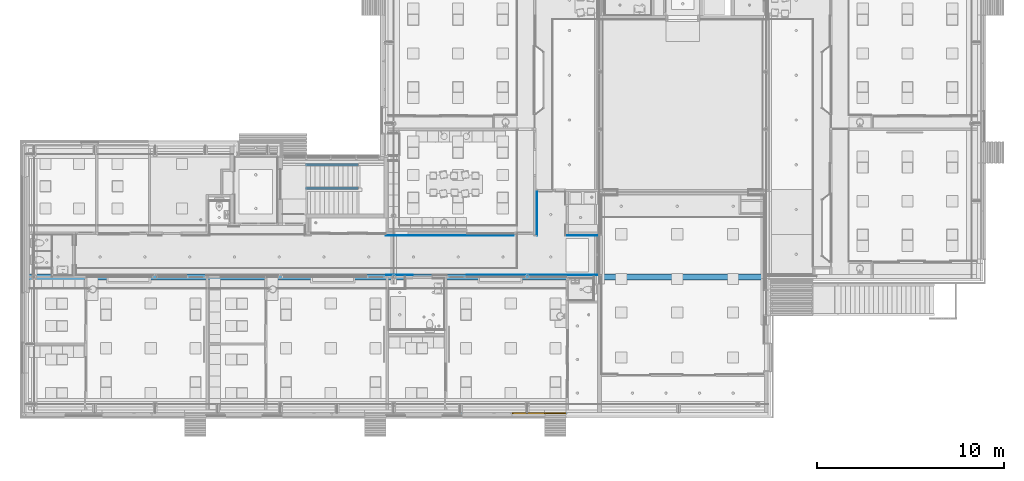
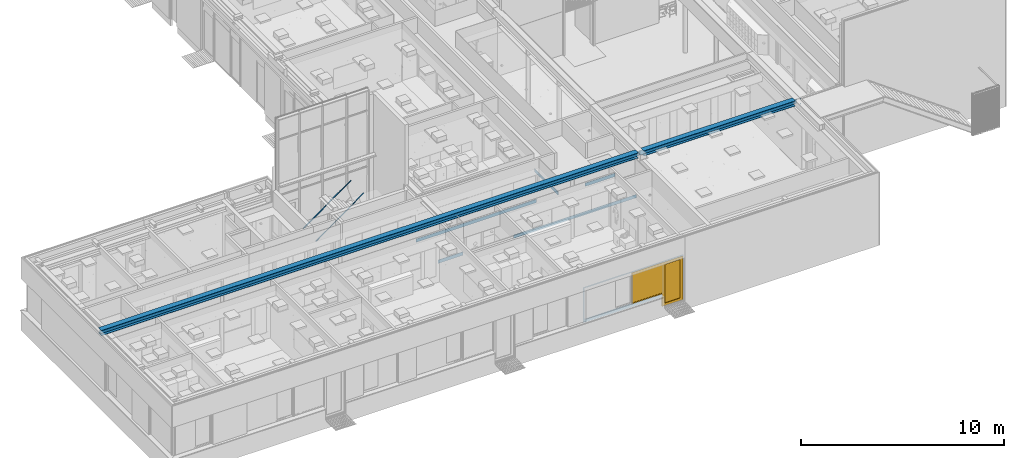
# One storey, part 25 of 347: 8 beams, 1 door, 2 openings, plus 1 element that does not belong to this part.
"""IFC2X3 building model written with IfcOpenShell, lengths in millimetres."""

from ifc_helpers import new_model, entity, si_unit, converted_unit, derived_unit, money_unit, direction, frame, origin_with_axes, place, context, subcontext, project, spatial, open_shell, faceted_brep, surface_model, material, type_object, element, fill, save


model = new_model("IFC2X3")

# Units and contexts
model_context = context("Model", 3, precision=0.01, world=origin_with_axes(), true_north=direction((0.0, 1.0)))
plan_context = context("Plan", 3, precision=0.01, world=origin_with_axes(), true_north=direction((0.0, 1.0)))
body_context = subcontext(model_context, "Body", "Model", "MODEL_VIEW")
ifc_project = project(units=[si_unit("LENGTHUNIT", "METRE", prefix="MILLI"), si_unit("AREAUNIT", "SQUARE_METRE"), si_unit("VOLUMEUNIT", "CUBIC_METRE"), converted_unit("PLANEANGLEUNIT", "DEGREE", entity("IfcPlaneAngleMeasure", 0.0174532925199), si_unit("PLANEANGLEUNIT", "RADIAN"), dimensions=[0, 0, 0, 0, 0, 0, 0]), money_unit("EUR"), converted_unit("TIMEUNIT", "Year", entity("IfcTimeMeasure", 31556926.0), si_unit("TIMEUNIT", "SECOND"), dimensions=[0, 0, 1, 0, 0, 0, 0]), si_unit("MASSUNIT", "GRAM", prefix="KILO"), si_unit("THERMODYNAMICTEMPERATUREUNIT", "DEGREE_CELSIUS"), si_unit("LUMINOUSINTENSITYUNIT", "LUMEN"), si_unit("ENERGYUNIT", "JOULE", prefix="MEGA"), derived_unit("THERMALCONDUCTANCEUNIT", [(si_unit("POWERUNIT", "WATT"), 1), (si_unit("LENGTHUNIT", "METRE"), -1), (si_unit("THERMODYNAMICTEMPERATUREUNIT", "KELVIN"), -1)]), derived_unit("SPECIFICHEATCAPACITYUNIT", [(si_unit("ENERGYUNIT", "JOULE"), 1), (si_unit("MASSUNIT", "GRAM", prefix="KILO"), -1), (si_unit("THERMODYNAMICTEMPERATUREUNIT", "KELVIN"), -1)]), derived_unit("MASSDENSITYUNIT", [(si_unit("MASSUNIT", "GRAM", prefix="KILO"), 1), (si_unit("VOLUMEUNIT", "CUBIC_METRE"), -1)])], contexts=[model_context, plan_context])

# Site, building, storey
site_placement = place(None, origin_with_axes())
site = spatial("IfcSite", under=ifc_project, at=site_placement, Name="Site", CompositionType="ELEMENT")
building_placement = place(site_placement, origin_with_axes())
building = spatial("IfcBuilding", under=site, at=building_placement, Name="Naam gebouw", CompositionType="ELEMENT")
storey_placement = place(building_placement, origin_with_axes())
storey = spatial("IfcBuildingStorey", under=building, at=storey_placement, Name="begane grond", CompositionType="ELEMENT", Elevation=0.0)

# Beams
ifc_material_1 = material(Name="Metaal - RVS")
beam_type_1 = type_object("IfcBeamType", Name="Metaal - RVS 40 x 20", PredefinedType="BEAM")
beam_1_placement = place(storey_placement, frame((19905.0, 18129.9999991, 1016.47764256), z_axis=(0.0, 0.0, 1.0), x_axis=(0.0, -1.0, 0.0)))
element("IfcBeam", 1, at=beam_1_placement, inside=storey, type_object=beam_type_1, material=ifc_material_1, Name="28_Balk-x", ObjectType="BEAM", context=body_context, shape_type="Brep", body=[
    faceted_brep([(-20.0, 20.0, 2.07766277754), (-20.0, 20.0, 5.12235411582), (-20.0, 0.0, 5.12235411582), (-20.0, 0.0, 12.3223375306), (-20.0, 2709.99996966, 1963.52235744), (-20.0, 2716.45090711, 1943.52235744), (20.0, 20.0, 5.12235411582), (20.0, 20.0, 2.07766277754), (20.0, 0.0, 5.12235411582), (20.0, 0.0, 12.3223375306), (20.0, 2709.99996966, 1963.52235744), (20.0, 2716.45090711, 1943.52235744)], [[[0, 1, 2, 3, 4, 5]], [[6, 1, 0, 7]], [[8, 2, 1, 6]], [[3, 2, 8, 9]], [[4, 3, 9, 10]], [[11, 5, 4, 10]], [[11, 7, 0, 5]], [[8, 6, 7, 11, 10, 9]]]),
])
beam_2_placement = place(storey_placement, frame((19905.0, 16870.0000009, 1016.47764256), z_axis=(0.0, 0.0, 1.0), x_axis=(0.0, -1.0, 0.0)))
element("IfcBeam", 2, at=beam_2_placement, inside=storey, type_object=beam_type_1, material=ifc_material_1, Name="28_Balk-x", ObjectType="BEAM", context=body_context, shape_type="Brep", body=[
    faceted_brep([(-20.0, 20.0, 2.07766277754), (-20.0, 20.0, 5.12235411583), (-20.0, 0.0, 5.12235411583), (-20.0, 0.0, 12.3223375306), (-20.0, 2709.99996966, 1963.52235744), (-20.0, 2716.45090711, 1943.52235744), (20.0, 20.0, 5.12235411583), (20.0, 20.0, 2.07766277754), (20.0, 0.0, 5.12235411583), (20.0, 0.0, 12.3223375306), (20.0, 2709.99996966, 1963.52235744), (20.0, 2716.45090711, 1943.52235744)], [[[0, 1, 2, 3, 4, 5]], [[6, 1, 0, 7]], [[8, 2, 1, 6]], [[3, 2, 8, 9]], [[4, 3, 9, 10]], [[4, 10, 11, 5]], [[11, 7, 0, 5]], [[8, 6, 7, 11, 10, 9]]]),
])

# Member, openings, door
ifc_material_2 = material(Name="31 pui/kozijn")
member_type = type_object("IfcMemberType", Name="31 pui/kozijn 62", PredefinedType="MEMBER")
member_placement = place(storey_placement, frame((33875.0, 4850.00002055, 535.00000231), z_axis=(0.0, 0.0, 1.0), x_axis=(-1.0, 0.0, 0.0)))
member = element("IfcMember", 3, at=member_placement, inside=storey, type_object=member_type, material=ifc_material_2, Name="21_31 buitenkozijn pui", ObjectType="MEMBER", context=body_context, shape_type="Brep", body=[
    faceted_brep([(50.0, 0.0, 2064.99999769), (2950.0, 0.0, 2064.99999769), (5650.0, 0.0, 2064.99999769), (5650.0, 0.0, 184.99999769), (2950.0, 0.0, 184.99999769), (1227.0, 0.0, 184.99999769), (1227.0, 0.0, 0.0), (5700.0, 0.0, 0.0), (5700.0, 0.0, 2100.0), (0.0, 0.0, 2100.0), (0.0, 0.0, 0.0), (50.0, 0.0, 0.0), (50.0, 62.0, 2064.99999769), (2950.0, 62.0, 2064.99999769), (5650.0, 62.0, 2064.99999769), (5650.0, 62.0, 184.99999769), (2950.0, 62.0, 184.99999769), (1227.0, 62.0, 184.99999769), (1227.0, 62.0, 0.0), (5700.0, 62.0, 0.0), (5700.0, 62.0, 2100.0), (0.0, 62.0, 2100.0), (0.0, 62.0, 0.0), (50.0, 62.0, 0.0)], [[[0, 1, 2, 3, 4, 5, 6, 7, 8, 9, 10, 11]], [[1, 0, 12, 13, 14, 2]], [[2, 14, 15, 3]], [[16, 17, 5, 4, 3, 15]], [[6, 5, 17, 18]], [[6, 18, 19, 7]], [[20, 8, 7, 19]], [[20, 21, 9, 8]], [[10, 9, 21, 22]], [[23, 11, 10, 22]], [[0, 11, 23, 12]], [[12, 23, 22, 21, 20, 19, 18, 17, 16, 15, 14, 13]]]),
])
opening_1_placement = place(member_placement, frame((4300.0, 0.0, 184.99999769), z_axis=(0.0, 0.0, 1.0), x_axis=(1.0, 0.0, 0.0)))
element("IfcOpeningElement", 4, at=opening_1_placement, cuts=member, Name="31_merk-AC1", context=body_context, shape_type="Brep", body=[
    faceted_brep([(-1350.0, -62.0, 0.0), (-1350.0, -62.0, 1880.0), (-1350.0, 134.0, 1880.0), (-1350.0, 134.0, 0.0), (1350.0, -62.0, 0.0), (1350.0, -62.0, 1880.0), (1350.0, 134.0, 1880.0), (1350.0, 134.0, 0.0)], [[[0, 1, 2, 3]], [[0, 4, 5, 1]], [[1, 5, 6, 2]], [[3, 2, 6, 7]], [[4, 0, 3, 7]], [[5, 4, 7, 6]]]),
])
opening_2_placement = place(member_placement, frame((1500.0, 0.0, -575.00000231), z_axis=(0.0, 0.0, 1.0), x_axis=(1.0, 0.0, 0.0)))
opening_2 = element("IfcOpeningElement", 5, at=opening_2_placement, cuts=member, Name="32_merk-AC2", context=body_context, shape_type="Brep", body=[
    faceted_brep([(1450.0, 134.0, 760.000007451), (1450.0, 134.0, 2640.0), (1450.0, -62.0, 2640.0), (1450.0, -62.0, 760.000007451), (-273.000017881, 134.0, 760.000007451), (-273.000017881, 134.0, -1.49011956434e-06), (-1450.0, 134.0, -1.49011956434e-06), (-1450.0, 134.0, 2640.0), (-1450.0, -62.0, 2640.0), (-1450.0, -62.0, -1.49011957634e-06), (-273.000017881, -62.0, -1.49011957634e-06), (-273.000017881, -62.0, 760.000007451)], [[[0, 1, 2, 3]], [[0, 4, 5, 6, 7, 1]], [[1, 7, 8, 2]], [[3, 2, 8, 9, 10, 11]], [[4, 0, 3, 11]], [[5, 4, 11, 10]], [[6, 5, 10, 9]], [[7, 6, 9, 8]]]),
])
door_style = type_object("IfcDoorStyle", Name="D1 zl1-b 25", ConstructionType="NOTDEFINED", OperationType="SINGLE_SWING_LEFT", ParameterTakesPrecedence=False, Sizeable=False)
door_placement = place(opening_2_placement, frame((-1450.0, 0.0, 0.0), z_axis=(0.0, 0.0, 1.0), x_axis=(1.0, 0.0, 0.0)))
door = element("IfcDoor", 6, at=door_placement, inside=storey, type_object=door_style, Name="32_merk-AC2", ObjectType="DOOR", OverallHeight=2640.0, OverallWidth=2900.0, context=body_context, shape_type="SurfaceModel", body=[
    faceted_brep([(54.0, 72.0, 0.0), (1109.0, 72.0, 0.0), (1109.0, 0.0, 0.0), (54.0, 0.0, 0.0), (54.0, 72.0, 48.0), (1109.0, 72.0, 48.0), (1109.0, 0.0, 48.0), (54.0, 0.0, 48.0)], [[[0, 1, 2, 3]], [[4, 5, 1, 0]], [[1, 5, 6, 2]], [[3, 2, 6, 7]], [[0, 3, 7, 4]], [[7, 6, 5, 4]]]),
    faceted_brep([(2900.0, 72.0, 760.0), (2900.0, 0.0, 760.0), (2861.0, 0.0, 760.0), (2861.0, 72.0, 760.0), (2900.0, 72.0, 2586.0), (2900.0, 0.0, 2586.0), (2861.0, 0.0, 2586.0), (2861.0, 0.0, 814.0), (2861.0, 72.0, 814.0), (2861.0, 72.0, 2586.0)], [[[0, 1, 2, 3]], [[4, 5, 1, 0]], [[1, 5, 6, 7, 2]], [[3, 2, 7, 8]], [[0, 3, 8, 9, 4]], [[9, 6, 5, 4]], [[8, 7, 6, 9]]]),
    faceted_brep([(1177.0, 72.0, 2586.0), (1177.0, 0.0, 2586.0), (1177.0, 0.0, 814.0), (1177.0, 72.0, 814.0), (1109.0, 72.0, 2586.0), (1109.0, 0.0, 2586.0), (1109.0, 0.0, 0.0), (1177.0, 0.0, 0.0), (1177.0, 0.0, 760.0), (1177.0, 72.0, 760.0), (1177.0, 72.0, 0.0), (1109.0, 72.0, 0.0)], [[[0, 1, 2, 3]], [[4, 5, 1, 0]], [[1, 5, 6, 7, 8, 2]], [[3, 2, 8, 9]], [[0, 3, 9, 10, 11, 4]], [[11, 6, 5, 4]], [[10, 7, 6, 11]], [[9, 8, 7, 10]]]),
    faceted_brep([(2861.0, 72.0, 814.0), (2861.0, 0.0, 814.0), (2861.0, 0.0, 760.0), (2861.0, 72.0, 760.0), (1177.0, 72.0, 814.0), (1177.0, 0.0, 814.0), (1177.0, 0.0, 760.0), (1177.0, 72.0, 760.0)], [[[0, 1, 2, 3]], [[4, 5, 1, 0]], [[1, 5, 6, 2]], [[3, 2, 6, 7]], [[0, 3, 7, 4]], [[7, 6, 5, 4]]]),
    faceted_brep([(0.0, 72.0, 0.0), (0.0, 0.0, 0.0), (0.0, 0.0, 2586.0), (0.0, 72.0, 2586.0), (54.0, 72.0, 0.0), (54.0, 0.0, 0.0), (54.0, 0.0, 2586.0), (54.0, 72.0, 2586.0)], [[[0, 1, 2, 3]], [[4, 5, 1, 0]], [[1, 5, 6, 2]], [[3, 2, 6, 7]], [[0, 3, 7, 4]], [[7, 6, 5, 4]]]),
    faceted_brep([(2900.0, 72.0, 2640.0), (2900.0, 0.0, 2640.0), (2900.0, 0.0, 2586.0), (2900.0, 72.0, 2586.0), (0.0, 72.0, 2640.0), (0.0, 0.0, 2640.0), (0.0, 0.0, 2586.0), (54.0, 0.0, 2586.0), (1109.0, 0.0, 2586.0), (1177.0, 0.0, 2586.0), (2861.0, 0.0, 2586.0), (2861.0, 72.0, 2586.0), (1177.0, 72.0, 2586.0), (1109.0, 72.0, 2586.0), (54.0, 72.0, 2586.0), (0.0, 72.0, 2586.0)], [[[0, 1, 2, 3]], [[4, 5, 1, 0]], [[1, 5, 6, 7, 8, 9, 10, 2]], [[3, 2, 10, 11]], [[0, 3, 11, 12, 13, 14, 15, 4]], [[15, 6, 5, 4]], [[14, 7, 6, 15]], [[13, 8, 7, 14]], [[12, 9, 8, 13]], [[11, 10, 9, 12]]]),
    faceted_brep([(54.0, 72.0, 158.0), (154.0, 72.0, 158.0), (154.0, 10.0, 158.0), (54.0, 10.0, 158.0), (54.0, 72.0, 2486.0), (154.0, 72.0, 2486.0), (154.0, 10.0, 2486.0), (54.0, 10.0, 2486.0)], [[[0, 1, 2, 3]], [[0, 4, 5, 1]], [[1, 5, 6, 2]], [[3, 2, 6, 7]], [[4, 0, 3, 7]], [[5, 4, 7, 6]]]),
    faceted_brep([(1109.0, 72.0, 158.0), (1109.0, 72.0, 2486.0), (1109.0, 10.0, 2486.0), (1109.0, 10.0, 158.0), (1009.0, 72.0, 158.0), (1009.0, 72.0, 2486.0), (1009.0, 10.0, 2486.0), (1009.0, 10.0, 158.0)], [[[0, 1, 2, 3]], [[0, 4, 5, 1]], [[1, 5, 6, 2]], [[3, 2, 6, 7]], [[4, 0, 3, 7]], [[5, 4, 7, 6]]]),
    faceted_brep([(54.0, 72.0, 48.0), (1109.0, 72.0, 48.0), (1109.0, 10.0, 48.0), (54.0, 10.0, 48.0), (54.0, 72.0, 158.0), (154.0, 72.0, 158.0), (1009.0, 72.0, 158.0), (1109.0, 72.0, 158.0), (1109.0, 10.0, 158.0), (1009.0, 10.0, 158.0), (154.0, 10.0, 158.0), (54.0, 10.0, 158.0)], [[[0, 1, 2, 3]], [[0, 4, 5, 6, 7, 1]], [[1, 7, 8, 2]], [[3, 2, 8, 9, 10, 11]], [[4, 0, 3, 11]], [[5, 4, 11, 10]], [[6, 5, 10, 9]], [[7, 6, 9, 8]]]),
    faceted_brep([(54.0, 72.0, 2586.0), (54.0, 72.0, 2486.0), (54.0, 10.0, 2486.0), (54.0, 10.0, 2586.0), (1109.0, 72.0, 2586.0), (1109.0, 72.0, 2486.0), (1009.0, 72.0, 2486.0), (154.0, 72.0, 2486.0), (154.0, 10.0, 2486.0), (1009.0, 10.0, 2486.0), (1109.0, 10.0, 2486.0), (1109.0, 10.0, 2586.0)], [[[0, 1, 2, 3]], [[0, 4, 5, 6, 7, 1]], [[1, 7, 8, 2]], [[3, 2, 8, 9, 10, 11]], [[4, 0, 3, 11]], [[5, 4, 11, 10]], [[6, 5, 10, 9]], [[7, 6, 9, 8]]]),
    surface_model("IfcShellBasedSurfaceModel", [(154.0, 47.0, 158.0), (154.0, 47.0, 2486.0), (1009.0, 47.0, 2486.0), (1009.0, 47.0, 158.0)], [open_shell([[[0, 1, 2, 3]]])]),
    surface_model("IfcShellBasedSurfaceModel", [(154.0, 35.0, 158.0), (1009.0, 35.0, 158.0), (1009.0, 35.0, 2486.0), (154.0, 35.0, 2486.0)], [open_shell([[[0, 1, 2, 3]]])]),
    surface_model("IfcShellBasedSurfaceModel", [(2861.0, 60.0, 814.0), (1177.0, 60.0, 814.0), (1177.0, 60.0, 2586.0), (2861.0, 60.0, 2586.0)], [open_shell([[[0, 1, 2, 3]]])]),
    surface_model("IfcShellBasedSurfaceModel", [(2861.0, 48.0, 814.0), (2861.0, 48.0, 2586.0), (1177.0, 48.0, 2586.0), (1177.0, 48.0, 814.0)], [open_shell([[[0, 1, 2, 3]]])]),
])
fill(opening_2, door)

# Beams
ifc_material_3 = material(Name="Glas geleiding strook")
beam_type_2 = type_object("IfcBeamType", Name="42 geleiding strook 20 x 200", PredefinedType="BEAM")
beam_3_placement = place(storey_placement, frame((24150.0, 14400.0, 0.0), z_axis=(0.0, 0.0, 1.0), x_axis=(0.0, -1.0, 0.0)))
element("IfcBeam", 7, at=beam_3_placement, inside=storey, type_object=beam_type_2, material=ifc_material_3, Name="28_Balk-x", ObjectType="BEAM", context=body_context, shape_type="Brep", body=[
    faceted_brep([(40.0, 6861.0, 1200.0), (40.0, 6861.0, 1000.0), (40.0, 0.0, 1000.0), (40.0, 0.0, 1200.0), (60.0, 6861.0, 1200.0), (60.0, 6861.0, 1000.0), (60.0, 0.0, 1000.0), (60.0, 0.0, 1200.0)], [[[0, 1, 2, 3]], [[0, 4, 5, 1]], [[1, 5, 6, 2]], [[3, 2, 6, 7]], [[4, 0, 3, 7]], [[5, 4, 7, 6]]]),
])
beam_4_placement = place(storey_placement, frame((32200.0, 14400.0, 0.0), z_axis=(0.0, 0.0, 1.0), x_axis=(1.0, 0.0, 0.0)))
element("IfcBeam", 8, at=beam_4_placement, inside=storey, type_object=beam_type_2, material=ifc_material_3, Name="28_Balk-x", ObjectType="BEAM", context=body_context, shape_type="Brep", body=[
    faceted_brep([(40.0, 2293.0, 1200.0), (40.0, 2293.0, 1000.0), (40.0, -40.0, 1000.0), (40.0, -40.0, 1200.0), (60.0, 2293.0, 1200.0), (60.0, 2293.0, 1000.0), (60.0, -60.0, 1000.0), (60.0, -60.0, 1200.0)], [[[0, 1, 2, 3]], [[0, 4, 5, 1]], [[1, 5, 6, 2]], [[3, 2, 6, 7]], [[4, 0, 3, 7]], [[5, 4, 7, 6]]]),
])
beam_5_placement = place(storey_placement, frame((33825.0, 14400.0, 0.0), z_axis=(0.0, 0.0, 1.0), x_axis=(0.0, -1.0, 0.0)))
element("IfcBeam", 9, at=beam_5_placement, inside=storey, type_object=beam_type_2, material=ifc_material_3, Name="28_Balk-x", ObjectType="BEAM", context=body_context, shape_type="Brep", body=[
    faceted_brep([(40.0, 1663.0, 1200.0), (40.0, 1663.0, 1000.0), (40.0, -40.0, 1000.0), (40.0, -40.0, 1200.0), (60.0, 1663.0, 1200.0), (60.0, 1663.0, 1000.0), (60.0, -60.0, 1000.0), (60.0, -60.0, 1200.0)], [[[0, 1, 2, 3]], [[0, 4, 5, 1]], [[1, 5, 6, 2]], [[3, 2, 6, 7]], [[4, 0, 3, 7]], [[5, 4, 7, 6]]]),
])
beam_6_placement = place(storey_placement, frame((25600.0, 12187.5, 0.0), z_axis=(0.0, 0.0, 1.0), x_axis=(0.0, 1.0, 0.0)))
element("IfcBeam", 10, at=beam_6_placement, inside=storey, type_object=beam_type_2, material=ifc_material_3, Name="28_Balk-x", ObjectType="BEAM", context=body_context, shape_type="Brep", body=[
    faceted_brep([(40.0, 1425.0, 1200.0), (40.0, 1425.0, 1000.0), (40.0, 0.0, 1000.0), (40.0, 0.0, 1200.0), (60.0, 1425.0, 1200.0), (60.0, 1425.0, 1000.0), (60.0, 0.0, 1000.0), (60.0, 0.0, 1200.0)], [[[0, 1, 2, 3]], [[0, 4, 5, 1]], [[1, 5, 6, 2]], [[3, 2, 6, 7]], [[4, 0, 3, 7]], [[5, 4, 7, 6]]]),
])
beam_7_placement = place(storey_placement, frame((35495.0, 12187.5, 0.0), z_axis=(0.0, 0.0, 1.0), x_axis=(0.0, 1.0, 0.0)))
element("IfcBeam", 11, at=beam_7_placement, inside=storey, type_object=beam_type_2, material=ifc_material_3, Name="28_Balk-x", ObjectType="BEAM", context=body_context, shape_type="Brep", body=[
    faceted_brep([(40.0, 7006.0, 1200.0), (40.0, 7006.0, 1000.0), (40.0, 0.0, 1000.0), (40.0, 0.0, 1200.0), (60.0, 7006.0, 1200.0), (60.0, 7006.0, 1000.0), (60.0, 0.0, 1000.0), (60.0, 0.0, 1200.0)], [[[0, 1, 2, 3]], [[0, 4, 5, 1]], [[1, 5, 6, 2]], [[3, 2, 6, 7]], [[4, 0, 3, 7]], [[5, 4, 7, 6]]]),
])
ifc_material_4 = material(Name="Metaal - Staal C")
beam_type_3 = type_object("IfcBeamType", Name="HEB320 300 x 320", PredefinedType="BEAM")
beam_8_placement = place(storey_placement, frame((44545.0, 12125.0, 3720.0), z_axis=(0.0, 0.0, 1.0), x_axis=(0.0, 1.0, 0.0)))
element("IfcBeam", 12, at=beam_8_placement, inside=storey, type_object=beam_type_3, material=ifc_material_4, Name="28_Balk-x", ObjectType="BEAM", context=body_context, shape_type="Brep", body=[
    faceted_brep([(-5.75, 8945.75, 139.5), (-5.75, 8945.75, -139.5), (5.75, 8945.75, -139.5), (5.75, 8945.75, 139.5), (-5.75, 39695.0, -139.5), (-5.75, 9090.0, -139.5), (-5.75, 9090.0, 139.5), (-5.75, 39695.0, 139.5), (5.75, 9090.0, -139.5), (5.75, 39695.0, -139.5), (5.75, 39695.0, 139.5), (5.75, 9090.0, 139.5), (-150.0, 39695.0, -139.5), (-150.0, 9090.0, -139.5), (-150.0, 9090.0, 139.5), (-150.0, 39695.0, 139.5), (-150.0, 39695.0, -160.0), (-150.0, 39695.0, 160.0), (150.0, 39695.0, 160.0), (150.0, 39695.0, 139.5), (150.0, 39695.0, -139.5), (150.0, 39695.0, -160.0), (-150.0, 9090.0, -160.0), (150.0, 9090.0, -160.0), (150.0, 9090.0, -139.5), (150.0, 9090.0, 139.5), (150.0, 9090.0, 160.0), (-150.0, 9090.0, 160.0)], [[[0, 1, 2, 3]], [[4, 5, 1, 0, 6, 7]], [[5, 8, 2, 1]], [[3, 2, 8, 9, 10, 11]], [[6, 0, 3, 11]], [[12, 13, 5, 4]], [[7, 6, 14, 15]], [[16, 12, 4, 7, 15, 17, 18, 19, 10, 9, 20, 21]], [[22, 23, 24, 8, 5, 13]], [[9, 8, 24, 20]], [[19, 25, 11, 10]], [[11, 25, 26, 27, 14, 6]], [[16, 22, 13, 12]], [[15, 14, 27, 17]], [[17, 27, 26, 18]], [[18, 26, 25, 19]], [[20, 24, 23, 21]], [[21, 23, 22, 16]]]),
    faceted_brep([(150.0, 150.0, -160.0), (150.0, 8790.0, -160.0), (150.0, 8790.0, -139.5), (150.0, 150.0, -139.5), (-150.0, 150.000002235, -160.000001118), (-150.0, 8790.0, -160.0), (-5.75, 8790.0, -139.5), (5.75, 8790.0, -139.5), (-150.0, 8790.0, -139.5), (5.75, 150.0, -139.5), (-150.0, 150.000002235, -139.500000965), (-5.75, 150.0, -139.5), (-5.75, 8934.25, -139.5), (5.75, 8934.25, -139.5), (5.75, 8934.25, 139.5), (5.75, 8790.0, 139.5), (5.75, 150.0, 139.5), (5.75, 5.75000000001, 139.5), (5.75, 5.75000000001, -139.5), (-5.75, 5.75000000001, -139.5), (-5.75, 8934.25, 139.5), (-5.75, 5.75000000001, 139.5), (-5.75, 150.0, 139.5), (-5.75, 8790.0, 139.5), (150.0, 8790.0, 139.5), (150.0, 150.0, 139.5), (-150.0, 150.0, 139.5), (-150.0, 8790.0, 139.5), (-150.0, 8790.0, 160.0), (150.0, 8790.0, 160.0), (150.0, 150.0, 160.0), (-150.0, 150.0, 160.0)], [[[0, 1, 2, 3]], [[4, 5, 1, 0]], [[6, 7, 2, 1, 5, 8]], [[3, 2, 7, 9]], [[10, 4, 0, 3, 9, 11]], [[10, 8, 5, 4]], [[12, 13, 7, 6]], [[11, 6, 8, 10]], [[9, 7, 13, 14, 15, 16, 17, 18]], [[19, 11, 9, 18]], [[14, 13, 12, 20]], [[20, 12, 6, 11, 19, 21, 22, 23]], [[15, 14, 20, 23]], [[16, 15, 24, 25]], [[22, 21, 17, 16]], [[21, 19, 18, 17]], [[26, 27, 23, 22]], [[27, 28, 29, 24, 15, 23]], [[25, 24, 29, 30]], [[31, 26, 22, 16, 25, 30]], [[31, 28, 27, 26]], [[30, 29, 28, 31]]]),
    faceted_brep([(-150.0, -170.0, -160.0), (-74.9999663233, -170.0, -160.0), (-74.9999663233, -170.0, -139.5), (-150.0, -170.0, -139.5), (-150.0, -150.0, -160.000001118), (-74.9999663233, -150.0, -160.0), (-74.9999663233, -150.0, -139.5), (-150.0, -150.0, -139.500000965)], [[[0, 1, 2, 3]], [[4, 5, 1, 0]], [[5, 6, 2, 1]], [[3, 2, 6, 7]], [[0, 3, 7, 4]], [[7, 6, 5, 4]]]),
    faceted_brep([(-150.0, -170.0, 139.5), (-74.9999663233, -170.0, 139.5), (-74.9999663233, -170.0, 160.000002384), (-150.0, -170.0, 160.0), (-150.0, -150.0, 139.5), (-74.9999663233, -150.0, 139.5), (-74.9999663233, -150.0, 160.0), (-150.0, -150.0, 160.0)], [[[0, 1, 2, 3]], [[4, 5, 1, 0]], [[5, 6, 2, 1]], [[3, 2, 6, 7]], [[0, 3, 7, 4]], [[7, 6, 5, 4]]]),
])

save(model, "model.ifc")
